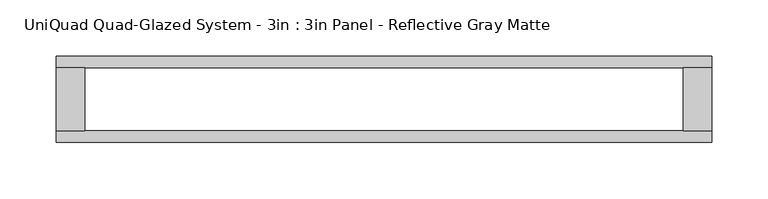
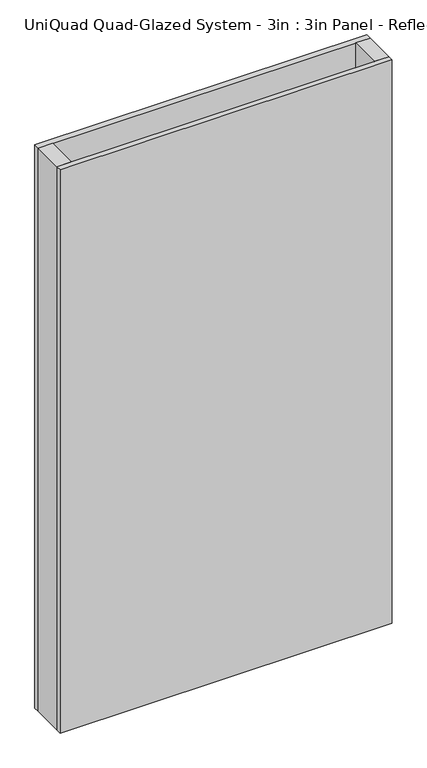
"""IFC4 building model written with IfcOpenShell, lengths in millimetres: plate geometry, UniQuad Quad-Glazed System - 3in : 3in Panel - Reflective Gray Matte."""

from ifc_helpers import new_model, si_unit, origin, origin_with_axes, place, context, project, spatial, polyline, outline, extrude, source, transform, mapped, element, save


def uniquad_quad_glazed_system_3in_3in_panel_reflective_gray_ee349e5f(model_context):
    return source(origin(), model_context, "Body", "SweptSolid", [
        extrude(outline(polyline([(290.6574524, 28.0924), (290.6574524, -28.0924), (265.2574524, -28.0924), (265.2574524, 28.0924), (290.6574524, 28.0924)])), origin_with_axes(), (0.0, 0.0, 1.0), 1041.4),
        extrude(outline(polyline([(-290.6574524, 28.0924), (-265.2574524, 28.0924), (-265.2574524, -28.0924), (-290.6574524, -28.0924), (-290.6574524, 28.0924)])), origin_with_axes(), (0.0, 0.0, 1.0), 1041.4),
        extrude(outline(polyline([(290.6574524, -28.0924), (290.6574524, -38.1), (-290.6574524, -38.1), (-290.6574524, -28.0924), (290.6574524, -28.0924)])), origin_with_axes(), (0.0, 0.0, 1.0), 1041.4),
        extrude(outline(polyline([(290.6574524, 38.1), (290.6574524, 28.0924), (-290.6574524, 28.0924), (-290.6574524, 38.1), (290.6574524, 38.1)])), origin_with_axes(), (0.0, 0.0, 1.0), 1041.4),
    ])


if __name__ == "__main__":
    model = new_model("IFC4")
    model_context = context("Model", 3, world=origin())
    ifc_project = project(units=[si_unit("LENGTHUNIT", "METRE", prefix="MILLI")], contexts=[model_context])
    site = spatial("IfcSite", under=ifc_project)
    building = spatial("IfcBuilding", under=site)
    placement = place(None, origin())
    uniquad_quad_glazed_system_3in_3in_panel_reflective_gray_shape = uniquad_quad_glazed_system_3in_3in_panel_reflective_gray_ee349e5f(model_context)
    element("IfcPlate", 1, ObjectType="UniQuad Quad-Glazed System - 3in : 3in Panel - Reflective Gray Matte", at=placement, inside=building, context=model_context, shape_type="MappedRepresentation", body=[
        mapped(uniquad_quad_glazed_system_3in_3in_panel_reflective_gray_shape, transform((0.0, 0.0, 0.0), x_axis=(1.0, 0.0, 0.0), y_axis=(0.0, 1.0, 0.0), z_axis=(0.0, 0.0, 1.0))),
    ])
    save(model, "model.ifc")
